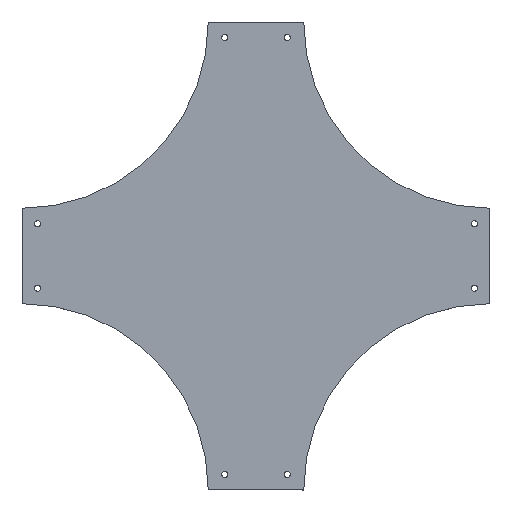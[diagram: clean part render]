
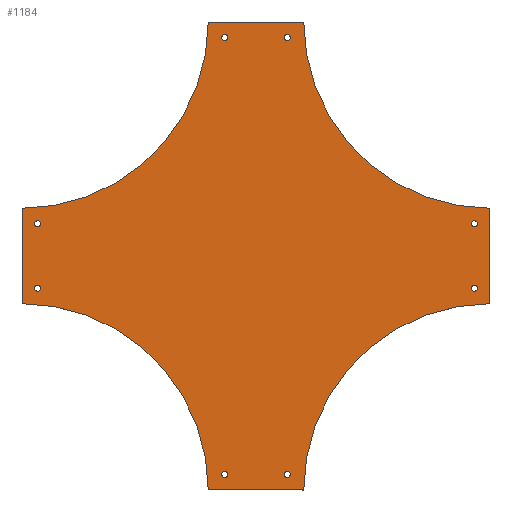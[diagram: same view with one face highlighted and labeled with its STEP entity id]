
A CAD part, top view. The second image highlights one B-rep face of the part: STEP entity #1184.
In plain terms, the highlighted planar face has unit normal (0, 0, 1).
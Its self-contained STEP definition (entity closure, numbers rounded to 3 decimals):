
#86=FACE_BOUND('',#177,.T.);
#87=FACE_BOUND('',#178,.T.);
#88=FACE_BOUND('',#179,.T.);
#89=FACE_BOUND('',#180,.T.);
#90=FACE_BOUND('',#181,.T.);
#91=FACE_BOUND('',#182,.T.);
#92=FACE_BOUND('',#183,.T.);
#93=FACE_BOUND('',#184,.T.);
#102=FACE_OUTER_BOUND('',#176,.T.);
#176=EDGE_LOOP('',(#810,#811,#812,#813,#814,#815,#816,#817));
#177=EDGE_LOOP('',(#818,#819));
#178=EDGE_LOOP('',(#820,#821));
#179=EDGE_LOOP('',(#822,#823));
#180=EDGE_LOOP('',(#824,#825));
#181=EDGE_LOOP('',(#826,#827));
#182=EDGE_LOOP('',(#828,#829));
#183=EDGE_LOOP('',(#830,#831));
#184=EDGE_LOOP('',(#832,#833));
#266=CIRCLE('',#1270,298.5);
#267=CIRCLE('',#1271,298.5);
#268=CIRCLE('',#1272,298.5);
#269=CIRCLE('',#1273,298.5);
#270=CIRCLE('',#1274,5.);
#271=CIRCLE('',#1275,5.);
#272=CIRCLE('',#1276,5.);
#273=CIRCLE('',#1277,5.);
#274=CIRCLE('',#1278,5.);
#275=CIRCLE('',#1279,5.);
#276=CIRCLE('',#1280,5.);
#277=CIRCLE('',#1281,5.);
#278=CIRCLE('',#1282,5.);
#279=CIRCLE('',#1283,5.);
#280=CIRCLE('',#1284,5.);
#281=CIRCLE('',#1285,5.);
#282=CIRCLE('',#1286,5.);
#283=CIRCLE('',#1287,5.);
#284=CIRCLE('',#1288,5.);
#285=CIRCLE('',#1289,5.);
#338=LINE('',#1839,#434);
#339=LINE('',#1843,#435);
#340=LINE('',#1847,#436);
#341=LINE('',#1851,#437);
#434=VECTOR('',#1430,304.8);
#435=VECTOR('',#1433,304.8);
#436=VECTOR('',#1436,304.8);
#437=VECTOR('',#1439,304.8);
#530=VERTEX_POINT('',#1837);
#531=VERTEX_POINT('',#1838);
#532=VERTEX_POINT('',#1840);
#533=VERTEX_POINT('',#1842);
#534=VERTEX_POINT('',#1844);
#535=VERTEX_POINT('',#1846);
#536=VERTEX_POINT('',#1848);
#537=VERTEX_POINT('',#1850);
#538=VERTEX_POINT('',#1853);
#539=VERTEX_POINT('',#1854);
#540=VERTEX_POINT('',#1857);
#541=VERTEX_POINT('',#1858);
#542=VERTEX_POINT('',#1861);
#543=VERTEX_POINT('',#1862);
#544=VERTEX_POINT('',#1865);
#545=VERTEX_POINT('',#1866);
#546=VERTEX_POINT('',#1869);
#547=VERTEX_POINT('',#1870);
#548=VERTEX_POINT('',#1873);
#549=VERTEX_POINT('',#1874);
#550=VERTEX_POINT('',#1877);
#551=VERTEX_POINT('',#1878);
#552=VERTEX_POINT('',#1881);
#553=VERTEX_POINT('',#1882);
#642=EDGE_CURVE('',#530,#531,#338,.T.);
#643=EDGE_CURVE('',#531,#532,#266,.T.);
#644=EDGE_CURVE('',#532,#533,#339,.T.);
#645=EDGE_CURVE('',#533,#534,#267,.T.);
#646=EDGE_CURVE('',#534,#535,#340,.T.);
#647=EDGE_CURVE('',#535,#536,#268,.T.);
#648=EDGE_CURVE('',#536,#537,#341,.T.);
#649=EDGE_CURVE('',#537,#530,#269,.T.);
#650=EDGE_CURVE('',#538,#539,#270,.T.);
#651=EDGE_CURVE('',#539,#538,#271,.T.);
#652=EDGE_CURVE('',#540,#541,#272,.T.);
#653=EDGE_CURVE('',#541,#540,#273,.T.);
#654=EDGE_CURVE('',#542,#543,#274,.T.);
#655=EDGE_CURVE('',#543,#542,#275,.T.);
#656=EDGE_CURVE('',#544,#545,#276,.T.);
#657=EDGE_CURVE('',#545,#544,#277,.T.);
#658=EDGE_CURVE('',#546,#547,#278,.T.);
#659=EDGE_CURVE('',#547,#546,#279,.T.);
#660=EDGE_CURVE('',#548,#549,#280,.T.);
#661=EDGE_CURVE('',#549,#548,#281,.T.);
#662=EDGE_CURVE('',#550,#551,#282,.T.);
#663=EDGE_CURVE('',#551,#550,#283,.T.);
#664=EDGE_CURVE('',#552,#553,#284,.T.);
#665=EDGE_CURVE('',#553,#552,#285,.T.);
#810=ORIENTED_EDGE('',*,*,#642,.T.);
#811=ORIENTED_EDGE('',*,*,#643,.T.);
#812=ORIENTED_EDGE('',*,*,#644,.T.);
#813=ORIENTED_EDGE('',*,*,#645,.T.);
#814=ORIENTED_EDGE('',*,*,#646,.T.);
#815=ORIENTED_EDGE('',*,*,#647,.T.);
#816=ORIENTED_EDGE('',*,*,#648,.T.);
#817=ORIENTED_EDGE('',*,*,#649,.T.);
#818=ORIENTED_EDGE('',*,*,#650,.T.);
#819=ORIENTED_EDGE('',*,*,#651,.T.);
#820=ORIENTED_EDGE('',*,*,#652,.T.);
#821=ORIENTED_EDGE('',*,*,#653,.T.);
#822=ORIENTED_EDGE('',*,*,#654,.T.);
#823=ORIENTED_EDGE('',*,*,#655,.T.);
#824=ORIENTED_EDGE('',*,*,#656,.T.);
#825=ORIENTED_EDGE('',*,*,#657,.T.);
#826=ORIENTED_EDGE('',*,*,#658,.T.);
#827=ORIENTED_EDGE('',*,*,#659,.T.);
#828=ORIENTED_EDGE('',*,*,#660,.T.);
#829=ORIENTED_EDGE('',*,*,#661,.T.);
#830=ORIENTED_EDGE('',*,*,#662,.T.);
#831=ORIENTED_EDGE('',*,*,#663,.T.);
#832=ORIENTED_EDGE('',*,*,#664,.T.);
#833=ORIENTED_EDGE('',*,*,#665,.T.);
#1146=PLANE('',#1269);
#1184=ADVANCED_FACE('',(#102,#86,#87,#88,#89,#90,#91,#92,#93),#1146,.T.);
#1269=AXIS2_PLACEMENT_3D('',#1836,#1428,#1429);
#1270=AXIS2_PLACEMENT_3D('',#1841,#1431,#1432);
#1271=AXIS2_PLACEMENT_3D('',#1845,#1434,#1435);
#1272=AXIS2_PLACEMENT_3D('',#1849,#1437,#1438);
#1273=AXIS2_PLACEMENT_3D('',#1852,#1440,#1441);
#1274=AXIS2_PLACEMENT_3D('',#1855,#1442,#1443);
#1275=AXIS2_PLACEMENT_3D('',#1856,#1444,#1445);
#1276=AXIS2_PLACEMENT_3D('',#1859,#1446,#1447);
#1277=AXIS2_PLACEMENT_3D('',#1860,#1448,#1449);
#1278=AXIS2_PLACEMENT_3D('',#1863,#1450,#1451);
#1279=AXIS2_PLACEMENT_3D('',#1864,#1452,#1453);
#1280=AXIS2_PLACEMENT_3D('',#1867,#1454,#1455);
#1281=AXIS2_PLACEMENT_3D('',#1868,#1456,#1457);
#1282=AXIS2_PLACEMENT_3D('',#1871,#1458,#1459);
#1283=AXIS2_PLACEMENT_3D('',#1872,#1460,#1461);
#1284=AXIS2_PLACEMENT_3D('',#1875,#1462,#1463);
#1285=AXIS2_PLACEMENT_3D('',#1876,#1464,#1465);
#1286=AXIS2_PLACEMENT_3D('',#1879,#1466,#1467);
#1287=AXIS2_PLACEMENT_3D('',#1880,#1468,#1469);
#1288=AXIS2_PLACEMENT_3D('',#1883,#1470,#1471);
#1289=AXIS2_PLACEMENT_3D('',#1884,#1472,#1473);
#1428=DIRECTION('center_axis',(0.,0.,1.));
#1429=DIRECTION('ref_axis',(0.,-1.,0.));
#1430=DIRECTION('',(0.,1.,0.));
#1431=DIRECTION('center_axis',(0.,0.,-1.));
#1432=DIRECTION('ref_axis',(1.,0.,0.));
#1433=DIRECTION('',(-1.,0.,0.));
#1434=DIRECTION('center_axis',(0.,0.,-1.));
#1435=DIRECTION('ref_axis',(1.,0.,0.));
#1436=DIRECTION('',(0.,-1.,0.));
#1437=DIRECTION('center_axis',(0.,0.,-1.));
#1438=DIRECTION('ref_axis',(1.,0.,0.));
#1439=DIRECTION('',(1.,0.,0.));
#1440=DIRECTION('center_axis',(0.,0.,-1.));
#1441=DIRECTION('ref_axis',(1.,0.,0.));
#1442=DIRECTION('center_axis',(0.,0.,-1.));
#1443=DIRECTION('ref_axis',(1.,0.,0.));
#1444=DIRECTION('center_axis',(0.,0.,-1.));
#1445=DIRECTION('ref_axis',(1.,0.,0.));
#1446=DIRECTION('center_axis',(0.,0.,-1.));
#1447=DIRECTION('ref_axis',(1.,0.,0.));
#1448=DIRECTION('center_axis',(0.,0.,-1.));
#1449=DIRECTION('ref_axis',(1.,0.,0.));
#1450=DIRECTION('center_axis',(0.,0.,-1.));
#1451=DIRECTION('ref_axis',(1.,0.,0.));
#1452=DIRECTION('center_axis',(0.,0.,-1.));
#1453=DIRECTION('ref_axis',(1.,0.,0.));
#1454=DIRECTION('center_axis',(0.,0.,-1.));
#1455=DIRECTION('ref_axis',(1.,0.,0.));
#1456=DIRECTION('center_axis',(0.,0.,-1.));
#1457=DIRECTION('ref_axis',(1.,0.,0.));
#1458=DIRECTION('center_axis',(0.,0.,-1.));
#1459=DIRECTION('ref_axis',(1.,0.,0.));
#1460=DIRECTION('center_axis',(0.,0.,-1.));
#1461=DIRECTION('ref_axis',(1.,0.,0.));
#1462=DIRECTION('center_axis',(0.,0.,-1.));
#1463=DIRECTION('ref_axis',(1.,0.,0.));
#1464=DIRECTION('center_axis',(0.,0.,-1.));
#1465=DIRECTION('ref_axis',(1.,0.,0.));
#1466=DIRECTION('center_axis',(0.,0.,-1.));
#1467=DIRECTION('ref_axis',(1.,0.,0.));
#1468=DIRECTION('center_axis',(0.,0.,-1.));
#1469=DIRECTION('ref_axis',(1.,0.,0.));
#1470=DIRECTION('center_axis',(0.,0.,-1.));
#1471=DIRECTION('ref_axis',(1.,0.,0.));
#1472=DIRECTION('center_axis',(0.,0.,-1.));
#1473=DIRECTION('ref_axis',(1.,0.,0.));
#1836=CARTESIAN_POINT('Origin',(-76.5,-375.,1.5));
#1837=CARTESIAN_POINT('',(375.,-76.5,1.5));
#1838=CARTESIAN_POINT('',(375.,76.5,1.5));
#1839=CARTESIAN_POINT('',(375.,-76.5,1.5));
#1840=CARTESIAN_POINT('',(76.5,375.,1.5));
#1841=CARTESIAN_POINT('Origin',(375.,375.,1.5));
#1842=CARTESIAN_POINT('',(-76.5,375.,1.5));
#1843=CARTESIAN_POINT('',(76.5,375.,1.5));
#1844=CARTESIAN_POINT('',(-375.,76.5,1.5));
#1845=CARTESIAN_POINT('Origin',(-375.,375.,1.5));
#1846=CARTESIAN_POINT('',(-375.,-76.5,1.5));
#1847=CARTESIAN_POINT('',(-375.,76.5,1.5));
#1848=CARTESIAN_POINT('',(-76.5,-375.,1.5));
#1849=CARTESIAN_POINT('Origin',(-375.,-375.,1.5));
#1850=CARTESIAN_POINT('',(76.5,-375.,1.5));
#1851=CARTESIAN_POINT('',(-76.5,-375.,1.5));
#1852=CARTESIAN_POINT('Origin',(375.,-375.,1.5));
#1853=CARTESIAN_POINT('',(-345.,51.5,1.5));
#1854=CARTESIAN_POINT('',(-355.,51.5,1.5));
#1855=CARTESIAN_POINT('Origin',(-350.,51.5,1.5));
#1856=CARTESIAN_POINT('Origin',(-350.,51.5,1.5));
#1857=CARTESIAN_POINT('',(-345.,-51.5,1.5));
#1858=CARTESIAN_POINT('',(-355.,-51.5,1.5));
#1859=CARTESIAN_POINT('Origin',(-350.,-51.5,1.5));
#1860=CARTESIAN_POINT('Origin',(-350.,-51.5,1.5));
#1861=CARTESIAN_POINT('',(55.,350.,1.5));
#1862=CARTESIAN_POINT('',(45.,350.,1.5));
#1863=CARTESIAN_POINT('Origin',(50.,350.,1.5));
#1864=CARTESIAN_POINT('Origin',(50.,350.,1.5));
#1865=CARTESIAN_POINT('',(-45.,350.,1.5));
#1866=CARTESIAN_POINT('',(-55.,350.,1.5));
#1867=CARTESIAN_POINT('Origin',(-50.,350.,1.5));
#1868=CARTESIAN_POINT('Origin',(-50.,350.,1.5));
#1869=CARTESIAN_POINT('',(355.,51.5,1.5));
#1870=CARTESIAN_POINT('',(345.,51.5,1.5));
#1871=CARTESIAN_POINT('Origin',(350.,51.5,1.5));
#1872=CARTESIAN_POINT('Origin',(350.,51.5,1.5));
#1873=CARTESIAN_POINT('',(355.,-51.5,1.5));
#1874=CARTESIAN_POINT('',(345.,-51.5,1.5));
#1875=CARTESIAN_POINT('Origin',(350.,-51.5,1.5));
#1876=CARTESIAN_POINT('Origin',(350.,-51.5,1.5));
#1877=CARTESIAN_POINT('',(-45.,-350.,1.5));
#1878=CARTESIAN_POINT('',(-55.,-350.,1.5));
#1879=CARTESIAN_POINT('Origin',(-50.,-350.,1.5));
#1880=CARTESIAN_POINT('Origin',(-50.,-350.,1.5));
#1881=CARTESIAN_POINT('',(55.,-350.,1.5));
#1882=CARTESIAN_POINT('',(45.,-350.,1.5));
#1883=CARTESIAN_POINT('Origin',(50.,-350.,1.5));
#1884=CARTESIAN_POINT('Origin',(50.,-350.,1.5));
